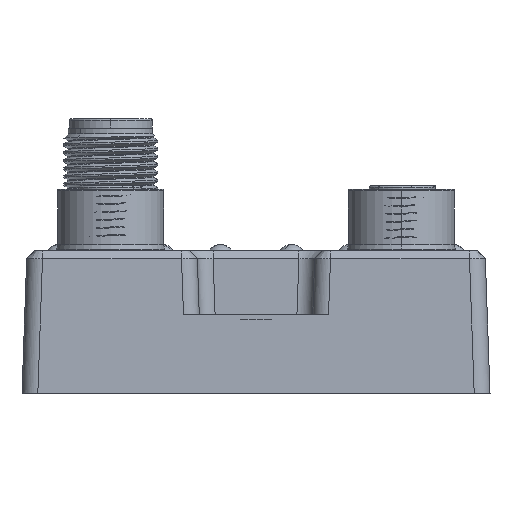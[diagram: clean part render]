
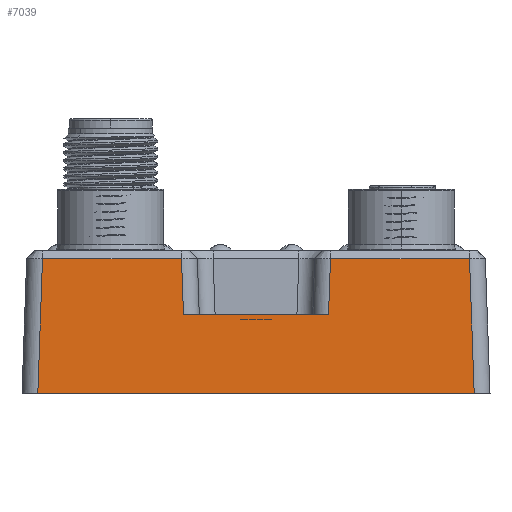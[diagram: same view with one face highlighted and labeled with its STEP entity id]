
A CAD part, front view. The second image highlights one B-rep face of the part: STEP entity #7039.
In plain terms, the highlighted planar face has unit normal (0, -0.999, 0.035).
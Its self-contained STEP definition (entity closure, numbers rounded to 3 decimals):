
#117=DIRECTION('',(0.035,-0.035,-0.999));
#118=VECTOR('',#117,17.021);
#119=CARTESIAN_POINT('',(26.988,-87.987,29.001));
#120=LINE('',#119,#118);
#121=DIRECTION('',(-1.,0.,0.));
#122=VECTOR('',#121,55.164);
#123=CARTESIAN_POINT('',(27.582,-88.581,12.));
#124=LINE('',#123,#122);
#125=DIRECTION('',(0.035,0.035,0.999));
#126=VECTOR('',#125,17.021);
#127=CARTESIAN_POINT('',(-27.582,-88.581,12.));
#128=LINE('',#127,#126);
#129=DIRECTION('',(1.,0.,0.));
#130=VECTOR('',#129,17.571);
#131=CARTESIAN_POINT('',(-26.988,-87.987,29.001));
#132=LINE('',#131,#130);
#133=DIRECTION('',(0.035,-0.035,-0.999));
#134=VECTOR('',#133,7.109);
#135=CARTESIAN_POINT('',(-9.418,-87.987,29.001));
#136=LINE('',#135,#134);
#137=DIRECTION('',(0.035,0.035,0.999));
#138=VECTOR('',#137,7.109);
#139=CARTESIAN_POINT('',(9.17,-88.235,21.9));
#140=LINE('',#139,#138);
#141=DIRECTION('',(1.,0.,0.));
#142=VECTOR('',#141,17.571);
#143=CARTESIAN_POINT('',(9.418,-87.987,29.001));
#144=LINE('',#143,#142);
#821=DIRECTION('',(-1.,0.,0.));
#822=VECTOR('',#821,18.34);
#823=CARTESIAN_POINT('',(9.17,-88.235,21.9));
#824=LINE('',#823,#822);
#5499=CARTESIAN_POINT('',(26.988,-87.987,29.001));
#5500=CARTESIAN_POINT('',(27.582,-88.581,12.));
#5501=VERTEX_POINT('',#5499);
#5502=VERTEX_POINT('',#5500);
#5503=CARTESIAN_POINT('',(-27.582,-88.581,
12.));
#5504=VERTEX_POINT('',#5503);
#5505=CARTESIAN_POINT('',(-26.988,-87.987,
29.001));
#5506=VERTEX_POINT('',#5505);
#5507=CARTESIAN_POINT('',(-9.418,-87.987,
29.001));
#5508=VERTEX_POINT('',#5507);
#5509=CARTESIAN_POINT('',(-9.17,-88.235,
21.9));
#5510=VERTEX_POINT('',#5509);
#5511=CARTESIAN_POINT('',(9.17,-88.235,21.9));
#5512=VERTEX_POINT('',#5511);
#5513=CARTESIAN_POINT('',(9.418,-87.987,29.001));
#5514=VERTEX_POINT('',#5513);
#7016=CARTESIAN_POINT('',(-32.2,-89.,0.));
#7017=DIRECTION('',(0.,-0.999,0.035));
#7018=DIRECTION('',(1.,0.,0.));
#7019=AXIS2_PLACEMENT_3D('',#7016,#7017,#7018);
#7020=PLANE('',#7019);
#7022=ORIENTED_EDGE('',*,*,#7021,.T.);
#7024=ORIENTED_EDGE('',*,*,#7023,.T.);
#7026=ORIENTED_EDGE('',*,*,#7025,.T.);
#7028=ORIENTED_EDGE('',*,*,#7027,.T.);
#7030=ORIENTED_EDGE('',*,*,#7029,.T.);
#7032=ORIENTED_EDGE('',*,*,#7031,.F.);
#7034=ORIENTED_EDGE('',*,*,#7033,.T.);
#7036=ORIENTED_EDGE('',*,*,#7035,.T.);
#7037=EDGE_LOOP('',(#7022,#7024,#7026,#7028,#7030,#7032,#7034,#7036));
#7038=FACE_OUTER_BOUND('',#7037,.F.);
#7021=EDGE_CURVE('',#5501,#5502,#120,.T.);
#7023=EDGE_CURVE('',#5502,#5504,#124,.T.);
#7025=EDGE_CURVE('',#5504,#5506,#128,.T.);
#7027=EDGE_CURVE('',#5506,#5508,#132,.T.);
#7029=EDGE_CURVE('',#5508,#5510,#136,.T.);
#7031=EDGE_CURVE('',#5512,#5510,#824,.T.);
#7033=EDGE_CURVE('',#5512,#5514,#140,.T.);
#7035=EDGE_CURVE('',#5514,#5501,#144,.T.);
#7039=ADVANCED_FACE('',(#7038),#7020,.T.);
